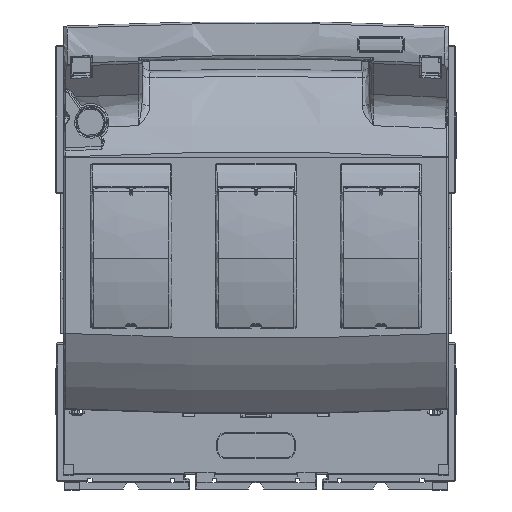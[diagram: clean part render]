
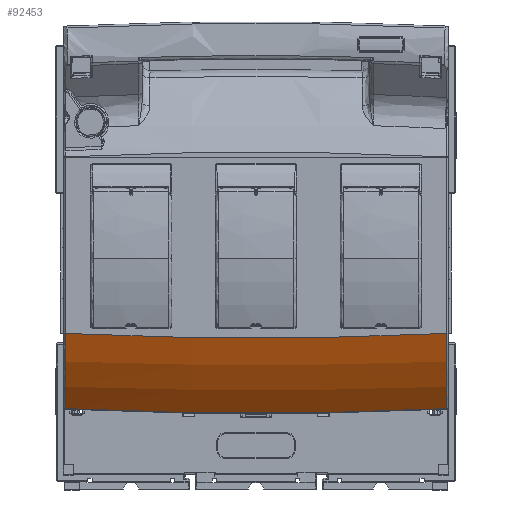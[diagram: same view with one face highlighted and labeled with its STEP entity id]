
A CAD part, top view. The second image highlights one B-rep face of the part: STEP entity #92453.
In plain terms, the highlighted free-form (B-spline) face has degree [3, 3] with [4, 4] control points.
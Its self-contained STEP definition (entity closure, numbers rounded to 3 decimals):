
#59671 = CARTESIAN_POINT ( 'NONE',  ( -122., 136.85, 140.08 ) ) ;
#59979 = CARTESIAN_POINT ( 'NONE',  ( 122., 136.85, 140.08 ) ) ;
#59981 = DIRECTION ( 'NONE',  ( -1., 0., 0. ) ) ;
#59982 = DIRECTION ( 'NONE',  ( 0., 0., -1. ) ) ;
#59983 = CARTESIAN_POINT ( 'NONE',  ( 0., 2585.439, 140.08 ) ) ;
#59984 = AXIS2_PLACEMENT_3D ( 'NONE', #59983, #59982, #59981 ) ;
#59986 = CIRCLE ( 'NONE', #59984, 2451.626 ) ;
#62813 = B_SPLINE_CURVE_WITH_KNOTS ( 'NONE', 3,
 ( #62969, #62968, #62966, #62964, #62963, #62962, #62961, #62960 ),
 .UNSPECIFIED., .F., .F.,
 ( 4, 2, 2, 4 ),
 ( 0., 0.25, 0.5, 1. ),
 .UNSPECIFIED. ) ;
#62815 = CARTESIAN_POINT ( 'NONE',  ( -122.034, 88.758, 107.915 ) ) ;
#62884 = CARTESIAN_POINT ( 'NONE',  ( -122.019, 136.85, 140.08 ) ) ;
#62945 = DIRECTION ( 'NONE',  ( 1., 0., 0. ) ) ;
#62947 = DIRECTION ( 'NONE',  ( 0., 0., 1. ) ) ;
#62949 = CARTESIAN_POINT ( 'NONE',  ( 0., 2585.439, 107.915 ) ) ;
#62950 = AXIS2_PLACEMENT_3D ( 'NONE', #62949, #62947, #62945 ) ;
#62952 = CIRCLE ( 'NONE', #62950, 2499.661 ) ;
#62960 = CARTESIAN_POINT ( 'NONE',  ( -122.034, 88.758, 107.915 ) ) ;
#62961 = CARTESIAN_POINT ( 'NONE',  ( -122.032, 95.235, 114.284 ) ) ;
#62962 = CARTESIAN_POINT ( 'NONE',  ( -122.031, 102.496, 120.303 ) ) ;
#62963 = CARTESIAN_POINT ( 'NONE',  ( -122.027, 114.542, 128.463 ) ) ;
#62964 = CARTESIAN_POINT ( 'NONE',  ( -122.026, 118.748, 131.038 ) ) ;
#62966 = CARTESIAN_POINT ( 'NONE',  ( -122.023, 127.53, 135.837 ) ) ;
#62968 = CARTESIAN_POINT ( 'NONE',  ( -122.021, 132.104, 138.062 ) ) ;
#62969 = CARTESIAN_POINT ( 'NONE',  ( -122.019, 136.85, 140.08 ) ) ;
#63271 = CARTESIAN_POINT ( 'NONE',  ( -122., 136.85, 140.08 ) ) ;
#63272 = CARTESIAN_POINT ( 'NONE',  ( -122.006, 136.85, 140.08 ) ) ;
#63274 = CARTESIAN_POINT ( 'NONE',  ( -122.013, 136.85, 140.08 ) ) ;
#63275 = CARTESIAN_POINT ( 'NONE',  ( -122.019, 136.85, 140.08 ) ) ;
#63285 = B_SPLINE_CURVE_WITH_KNOTS ( 'NONE', 3,
 ( #63275, #63274, #63272, #63271 ),
 .UNSPECIFIED., .F., .F.,
 ( 4, 4 ),
 ( 0., 0. ),
 .UNSPECIFIED. ) ;
#63346 =( BOUNDED_SURFACE ( )  B_SPLINE_SURFACE ( 3, 3, ( 
 ( #63449, #63447, #63444, #63441 ),
 ( #63436, #63435, #63434, #63432 ),
 ( #63428, #63424, #63421, #63419 ),
 ( #63418, #63416, #63414, #63412 ) ),
 .UNSPECIFIED., .F., .F., .T. ) 
 B_SPLINE_SURFACE_WITH_KNOTS ( ( 4, 4 ),
 ( 4, 4 ),
 ( 0., 1. ),
 ( 0., 1. ),
 .UNSPECIFIED. ) 
 GEOMETRIC_REPRESENTATION_ITEM ( )  RATIONAL_B_SPLINE_SURFACE ( (
 ( 1., 0.999, 0.999, 1.),
 ( 0.988, 0.987, 0.987, 0.988),
 ( 0.988, 0.987, 0.987, 0.988),
 ( 1., 0.999, 0.999, 1.) ) ) 
 REPRESENTATION_ITEM ( '' )  SURFACE ( )  );
#63351 = FACE_OUTER_BOUND ( 'NONE', #92468, .T. ) ;
#63412 = CARTESIAN_POINT ( 'NONE',  ( -123.482, 136.924, 140.08 ) ) ;
#63414 = CARTESIAN_POINT ( 'NONE',  ( -41.196, 132.774, 140.08 ) ) ;
#63416 = CARTESIAN_POINT ( 'NONE',  ( 41.196, 132.774, 140.08 ) ) ;
#63418 = CARTESIAN_POINT ( 'NONE',  ( 123.482, 136.924, 140.08 ) ) ;
#63419 = CARTESIAN_POINT ( 'NONE',  ( -124.386, 119.007, 132.443 ) ) ;
#63421 = CARTESIAN_POINT ( 'NONE',  ( -41.497, 114.827, 132.443 ) ) ;
#63424 = CARTESIAN_POINT ( 'NONE',  ( 41.497, 114.827, 132.443 ) ) ;
#63428 = CARTESIAN_POINT ( 'NONE',  ( 124.386, 119.007, 132.443 ) ) ;
#63432 = CARTESIAN_POINT ( 'NONE',  ( -125.202, 102.826, 121.594 ) ) ;
#63434 = CARTESIAN_POINT ( 'NONE',  ( -41.769, 98.619, 121.594 ) ) ;
#63435 = CARTESIAN_POINT ( 'NONE',  ( 41.769, 98.619, 121.594 ) ) ;
#63436 = CARTESIAN_POINT ( 'NONE',  ( 125.202, 102.826, 121.594 ) ) ;
#63441 = CARTESIAN_POINT ( 'NONE',  ( -125.902, 88.95, 107.915 ) ) ;
#63444 = CARTESIAN_POINT ( 'NONE',  ( -42.003, 84.719, 107.915 ) ) ;
#63447 = CARTESIAN_POINT ( 'NONE',  ( 42.003, 84.719, 107.915 ) ) ;
#63449 = CARTESIAN_POINT ( 'NONE',  ( 125.902, 88.95, 107.915 ) ) ;
#63950 = CARTESIAN_POINT ( 'NONE',  ( 122., 136.85, 140.08 ) ) ;
#63955 = CARTESIAN_POINT ( 'NONE',  ( 122.006, 136.85, 140.08 ) ) ;
#63957 = CARTESIAN_POINT ( 'NONE',  ( 122.013, 136.85, 140.08 ) ) ;
#63960 = CARTESIAN_POINT ( 'NONE',  ( 122.019, 136.85, 140.08 ) ) ;
#63966 = B_SPLINE_CURVE_WITH_KNOTS ( 'NONE', 3,
 ( #63960, #63957, #63955, #63950 ),
 .UNSPECIFIED., .F., .F.,
 ( 4, 4 ),
 ( 0., 0. ),
 .UNSPECIFIED. ) ;
#92115 = ORIENTED_EDGE ( 'NONE', *, *, #92125, .T. ) ;
#92125 = EDGE_CURVE ( 'NONE', #92136, #92141, #208111, .T. ) ;
#92136 = VERTEX_POINT ( 'NONE', #208189 ) ;
#92141 = VERTEX_POINT ( 'NONE', #208186 ) ;
#92146 = ORIENTED_EDGE ( 'NONE', *, *, #92634, .T. ) ;
#92274 = VERTEX_POINT ( 'NONE', #62884 ) ;
#92297 = ORIENTED_EDGE ( 'NONE', *, *, #136195, .T. ) ;
#92300 = ORIENTED_EDGE ( 'NONE', *, *, #92415, .F. ) ;
#92307 = ORIENTED_EDGE ( 'NONE', *, *, #92316, .T. ) ;
#92316 = EDGE_CURVE ( 'NONE', #92274, #92319, #62813, .T. ) ;
#92319 = VERTEX_POINT ( 'NONE', #62815 ) ;
#92327 = ORIENTED_EDGE ( 'NONE', *, *, #92334, .T. ) ;
#92334 = EDGE_CURVE ( 'NONE', #92319, #92136, #62952, .T. ) ;
#92415 = EDGE_CURVE ( 'NONE', #92274, #136057, #63285, .T. ) ;
#92453 = ADVANCED_FACE ( 'NONE', ( #63351 ), #63346, .T. ) ;
#92468 = EDGE_LOOP ( 'NONE', ( #92115, #92146, #92297, #92300, #92307, #92327 ) ) ;
#92634 = EDGE_CURVE ( 'NONE', #92141, #136198, #63966, .T. ) ;
#136057 = VERTEX_POINT ( 'NONE', #59671 ) ;
#136195 = EDGE_CURVE ( 'NONE', #136198, #136057, #59986, .T. ) ;
#136198 = VERTEX_POINT ( 'NONE', #59979 ) ;
#208103 = CARTESIAN_POINT ( 'NONE',  ( 122.026, 118.748, 131.038 ) ) ;
#208104 = CARTESIAN_POINT ( 'NONE',  ( 122.027, 114.542, 128.463 ) ) ;
#208105 = CARTESIAN_POINT ( 'NONE',  ( 122.031, 102.496, 120.303 ) ) ;
#208106 = CARTESIAN_POINT ( 'NONE',  ( 122.032, 95.235, 114.284 ) ) ;
#208107 = CARTESIAN_POINT ( 'NONE',  ( 122.034, 88.758, 107.915 ) ) ;
#208111 = B_SPLINE_CURVE_WITH_KNOTS ( 'NONE', 3,
 ( #208107, #208106, #208105, #208104, #208103, #208194, #208192, #208191 ),
 .UNSPECIFIED., .F., .F.,
 ( 4, 2, 2, 4 ),
 ( 0., 0.5, 0.75, 1. ),
 .UNSPECIFIED. ) ;
#208186 = CARTESIAN_POINT ( 'NONE',  ( 122.019, 136.85, 140.08 ) ) ;
#208189 = CARTESIAN_POINT ( 'NONE',  ( 122.034, 88.758, 107.915 ) ) ;
#208191 = CARTESIAN_POINT ( 'NONE',  ( 122.019, 136.85, 140.08 ) ) ;
#208192 = CARTESIAN_POINT ( 'NONE',  ( 122.021, 132.104, 138.062 ) ) ;
#208194 = CARTESIAN_POINT ( 'NONE',  ( 122.023, 127.53, 135.837 ) ) ;
